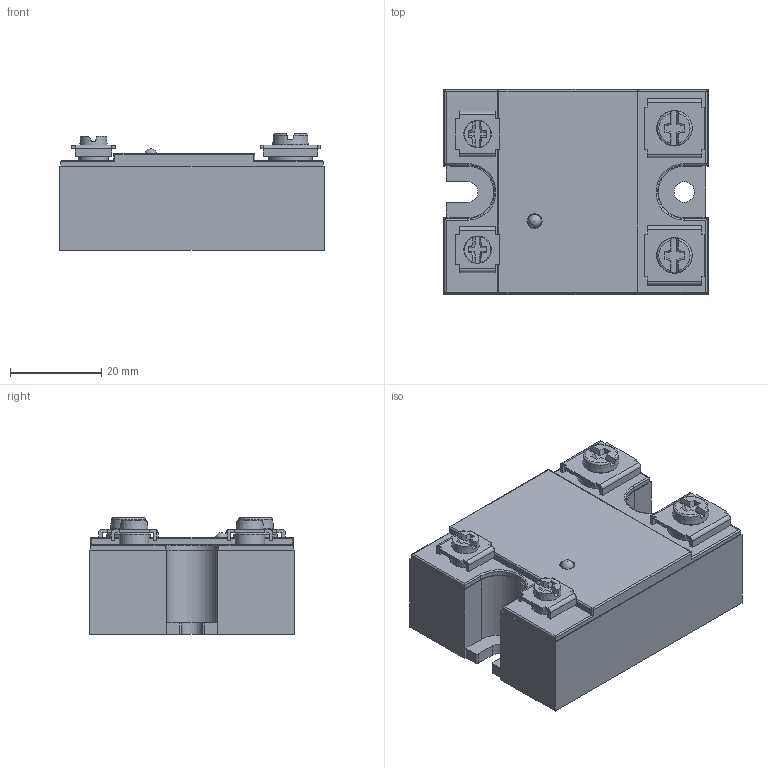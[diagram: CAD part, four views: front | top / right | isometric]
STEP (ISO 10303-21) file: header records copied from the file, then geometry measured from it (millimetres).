
FILE_DESCRIPTION(('FreeCAD Model'),'2;1');
FILE_NAME('C:/Users/Metaltex-99/Desktop/TZA.stp','2020-11-05T09:33:50',( 'Engenharia Metaltex'),('Metaltex'), 'Open CASCADE STEP processor 7.3','FreeCAD','Unknown');
FILE_SCHEMA(('AUTOMOTIVE_DESIGN { 1 0 10303 214 1 1 1 1 }'));
Products named in the file (1): TZA
Bounding box: 58 x 45 x 25.6 mm (x, y, z)
Volume: 17588.5 mm3; surface area: 24336.1 mm2
Topology: 16 solids, 16 shells, 535 faces, 4273 edges, 12168 vertices
Faces by surface type: plane 369, cylinder 134, cone 19, torus 8, sphere 5
Full cylindrical faces by diameter (mm): 2.5 x4, 2.8 x1, 3 x5, 3.3 x1, 4 x6, 4.5 x5, 6 x2, 6.5 x2, 7 x2, 8.1 x2, 9.5 x2, 10.2 x2
Entity records: 74615 total; most frequent: CARTESIAN_POINT 22645, DIRECTION 8867, LINE 5437, VECTOR 5437, GEOMETRIC_CURVE_SET 2848, ORIENTED_EDGE 2842, PCURVE 2842, DEFINITIONAL_REPRESENTATION 2842
